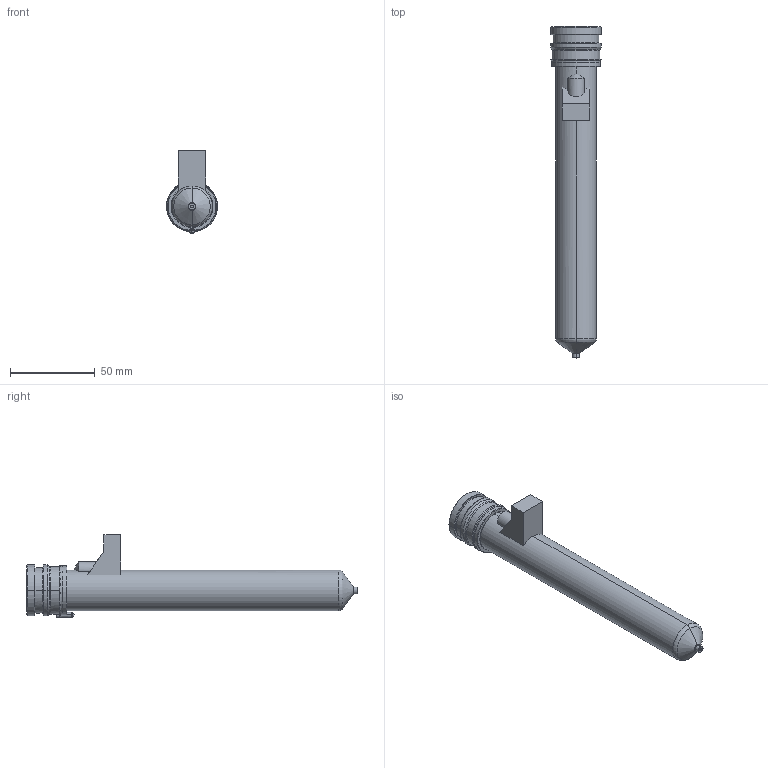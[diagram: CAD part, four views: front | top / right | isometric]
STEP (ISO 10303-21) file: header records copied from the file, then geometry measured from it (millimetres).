
FILE_DESCRIPTION((''),'2;1');
FILE_NAME('MPN-10-29-VP4-176-M','2026-02-05T12:59:38',('UPTIO'),('Thermoplay S.p.A.'),'CREO PARAMETRIC BY PTC INC, 2023494','CREO PARAMETRIC BY PTC INC, 2023494','');
FILE_SCHEMA(('CONFIG_CONTROL_DESIGN','SHAPE_APPEARANCE_LAYERS_GROUPS'));
Length unit declared in the file: millimetre
Products named in the file (1): MPN-10-29-VP4-176-M
Bounding box: 30 x 196.1 x 49 mm (x, y, z)
Volume: 61038.2 mm3; surface area: 62932 mm2
Topology: 3 solids, 5 shells, 570 faces, 1471 edges, 906 vertices
Faces by surface type: cylinder 177, plane 156, bspline 92, torus 69, cone 66, sphere 6, extrusion 4
Entity records: 30853 total; most frequent: CARTESIAN_POINT 14510, ORIENTED_EDGE 2928, DIRECTION 2618, EDGE_CURVE 1464, AXIS2_PLACEMENT_3D 1035, VERTEX_POINT 906, EDGE_LOOP 598, FACE_OUTER_BOUND 570
